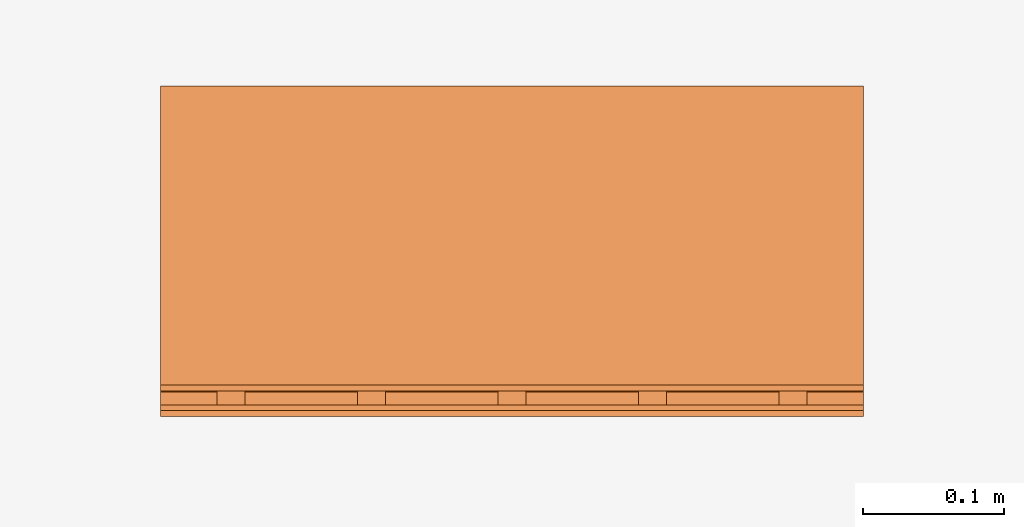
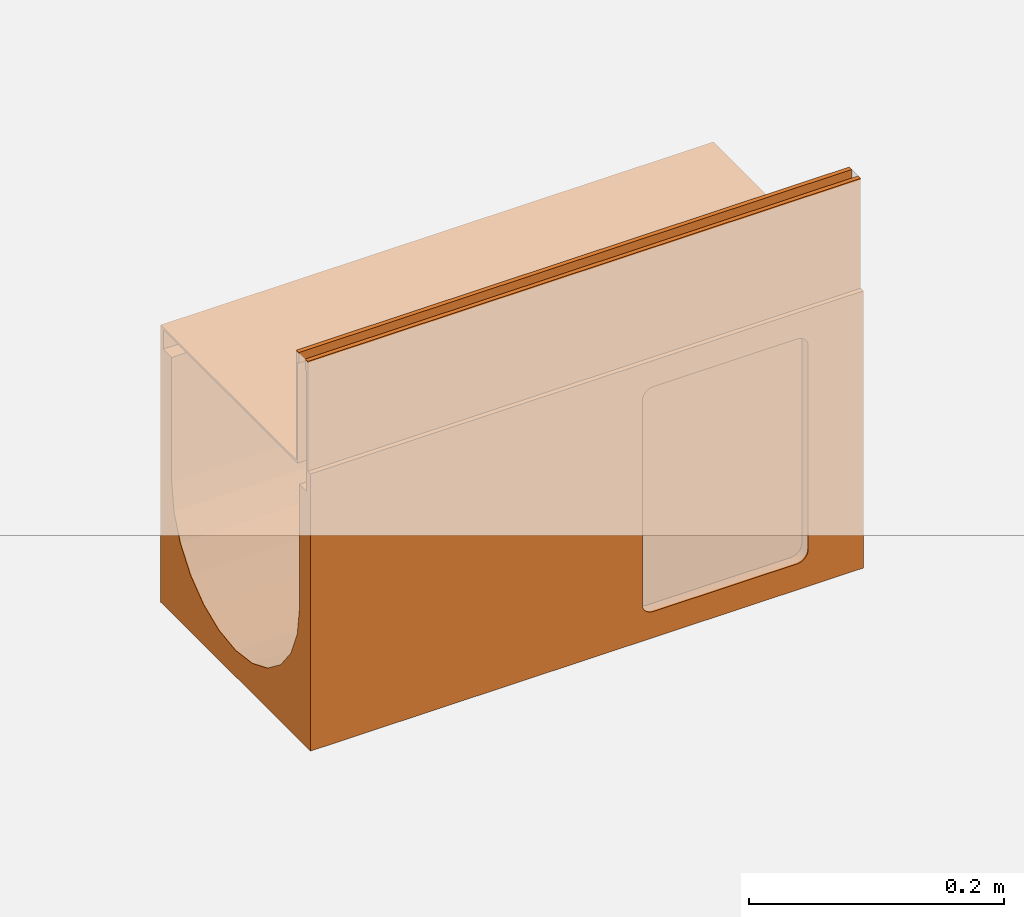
# One storey, part 2 of 2: 1 proxy.
"""IFC2X3 building model written with IfcOpenShell, lengths in millimetres."""

from ifc_helpers import new_model, entity, si_unit, converted_unit, direction, frame, origin, place, context, subcontext, project, spatial, faceted_brep, source, transform, mapped, material, material_list, element, save


model = new_model("IFC2X3")

# Units and contexts
model_context = context("Model", 3, precision=1e-06, world=origin(), true_north=direction((2.0, 6.12303176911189e-17, 1.0)))
context_of_model = context(None, 3, precision=1e-06, world=origin(), true_north=direction((2.0, 6.12303176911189e-17, 1.0)))
body_context = subcontext(model_context, "Body", "Model", "MODEL_VIEW")
ifc_project = project(units=[si_unit("LENGTHUNIT", "METRE", prefix="MILLI"), si_unit("AREAUNIT", "SQUARE_METRE", prefix="MILLI"), si_unit("VOLUMEUNIT", "CUBIC_METRE", prefix="MILLI"), converted_unit("PLANEANGLEUNIT", "DEGREE", entity("IfcRatioMeasure", 0.0174532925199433), si_unit("PLANEANGLEUNIT", "RADIAN"), dimensions=[0, 0, 0, 0, 0, 0, 0]), si_unit("TIMEUNIT", "SECOND")], contexts=[model_context, context_of_model])

# Site, building, storey
site_placement = place(None, origin())
site = spatial("IfcSite", under=ifc_project, at=site_placement, Name="Default", CompositionType="ELEMENT")
building_placement = place(site_placement, origin())
building = spatial("IfcBuilding", under=site, at=building_placement, CompositionType="ELEMENT")
storey_placement = place(building_placement, origin())
storey = spatial("IfcBuildingStorey", under=building, at=storey_placement, Name="Level 1", CompositionType="ELEMENT", Elevation=0.0)

# Proxy
ifc_material_1 = material(Name="Stainless Steel (F)")
ifc_material_2 = material(Name="Vienite® Synthetic Resin Concrete")
ifc_material_list = material_list([ifc_material_1, ifc_material_2])
shared_shape = source(origin(), body_context, "Body", "Brep", [
    faceted_brep([(113.250000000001, 40.0, -107.0), (113.250000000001, 42.0, -109.0), (113.250000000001, 58.0, -109.0), (113.250000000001, 60.0, -107.0), (113.250000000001, 42.0, -123.499999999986), (113.250000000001, 40.0, -125.499999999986), (113.250000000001, 58.0, -123.499999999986), (113.250000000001, 60.0, -125.499999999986), (-111.249999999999, 40.0, -125.499999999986), (-111.249999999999, 42.0, -123.499999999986), (-111.249999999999, 58.0, -123.499999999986), (-111.249999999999, 60.0, -125.499999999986), (-111.249999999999, 42.0, -109.0), (-111.249999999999, 40.0, -107.0), (-111.249999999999, 58.0, -109.0), (-111.249999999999, 60.0, -107.0)], [[[0, 1, 2, 3]], [[4, 1, 0, 5]], [[3, 2, 6, 7]], [[6, 4, 5, 7]], [[8, 9, 10, 11]], [[12, 9, 8, 13]], [[11, 10, 14, 15]], [[14, 12, 13, 15]], [[8, 5, 0, 13]], [[7, 5, 8, 11]], [[15, 3, 7, 11]], [[0, 3, 15, 13]], [[1, 4, 9, 12]], [[2, 1, 12, 14]], [[10, 6, 2, 14]], [[4, 6, 10, 9]]]),
    faceted_brep([(113.250000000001, 140.0, -107.0), (113.250000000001, 142.0, -109.0), (113.250000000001, 158.0, -109.0), (113.250000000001, 160.0, -107.0), (113.250000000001, 142.0, -123.499999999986), (113.250000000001, 140.0, -125.499999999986), (113.250000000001, 158.0, -123.499999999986), (113.250000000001, 160.0, -125.499999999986), (-111.249999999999, 140.0, -125.499999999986), (-111.249999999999, 142.0, -123.499999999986), (-111.249999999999, 158.0, -123.499999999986), (-111.249999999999, 160.0, -125.499999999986), (-111.249999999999, 142.0, -109.0), (-111.249999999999, 140.0, -107.0), (-111.249999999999, 158.0, -109.0), (-111.249999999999, 160.0, -107.0)], [[[0, 1, 2, 3]], [[4, 1, 0, 5]], [[3, 2, 6, 7]], [[6, 4, 5, 7]], [[8, 9, 10, 11]], [[12, 9, 8, 13]], [[11, 10, 14, 15]], [[14, 12, 13, 15]], [[8, 5, 0, 13]], [[7, 5, 8, 11]], [[15, 3, 7, 11]], [[0, 3, 15, 13]], [[1, 4, 9, 12]], [[2, 1, 12, 14]], [[10, 6, 2, 14]], [[4, 6, 10, 9]]]),
    faceted_brep([(113.250000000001, 240.0, -107.0), (113.250000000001, 242.0, -109.0), (113.250000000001, 258.0, -109.0), (113.250000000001, 260.0, -107.0), (113.250000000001, 242.0, -123.499999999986), (113.250000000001, 240.0, -125.499999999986), (113.250000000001, 258.0, -123.499999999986), (113.250000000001, 260.0, -125.499999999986), (-111.249999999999, 240.0, -125.499999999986), (-111.249999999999, 242.0, -123.499999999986), (-111.249999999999, 258.0, -123.499999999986), (-111.249999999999, 260.0, -125.499999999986), (-111.249999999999, 242.0, -109.0), (-111.249999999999, 240.0, -107.0), (-111.249999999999, 258.0, -109.0), (-111.249999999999, 260.0, -107.0)], [[[0, 1, 2, 3]], [[4, 1, 0, 5]], [[3, 2, 6, 7]], [[6, 4, 5, 7]], [[8, 9, 10, 11]], [[12, 9, 8, 13]], [[11, 10, 14, 15]], [[14, 12, 13, 15]], [[8, 5, 0, 13]], [[7, 5, 8, 11]], [[15, 3, 7, 11]], [[0, 3, 15, 13]], [[1, 4, 9, 12]], [[2, 1, 12, 14]], [[10, 6, 2, 14]], [[4, 6, 10, 9]]]),
    faceted_brep([(113.250000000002, 340.0, -107.0), (113.250000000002, 342.0, -109.0), (113.250000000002, 358.0, -109.0), (113.250000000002, 360.0, -107.0), (113.250000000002, 342.0, -123.499999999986), (113.250000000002, 340.0, -125.499999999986), (113.250000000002, 358.0, -123.499999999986), (113.250000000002, 360.0, -125.499999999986), (-111.249999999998, 340.0, -125.499999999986), (-111.249999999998, 342.0, -123.499999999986), (-111.249999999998, 358.0, -123.499999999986), (-111.249999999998, 360.0, -125.499999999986), (-111.249999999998, 342.0, -109.0), (-111.249999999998, 340.0, -107.0), (-111.249999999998, 358.0, -109.0), (-111.249999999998, 360.0, -107.0)], [[[0, 1, 2, 3]], [[4, 1, 0, 5]], [[3, 2, 6, 7]], [[6, 4, 5, 7]], [[8, 9, 10, 11]], [[12, 9, 8, 13]], [[11, 10, 14, 15]], [[14, 12, 13, 15]], [[8, 5, 0, 13]], [[7, 5, 8, 11]], [[15, 3, 7, 11]], [[0, 3, 15, 13]], [[1, 4, 9, 12]], [[2, 1, 12, 14]], [[10, 6, 2, 14]], [[4, 6, 10, 9]]]),
    faceted_brep([(113.250000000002, 440.0, -107.0), (113.250000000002, 442.0, -109.0), (113.250000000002, 458.0, -109.0), (113.250000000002, 460.0, -107.0), (113.250000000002, 442.0, -123.499999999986), (113.250000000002, 440.0, -125.499999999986), (113.250000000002, 458.0, -123.499999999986), (113.250000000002, 460.0, -125.499999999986), (-111.249999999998, 440.0, -125.499999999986), (-111.249999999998, 442.0, -123.499999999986), (-111.249999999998, 458.0, -123.499999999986), (-111.249999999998, 460.0, -125.499999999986), (-111.249999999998, 442.0, -109.0), (-111.249999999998, 440.0, -107.0), (-111.249999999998, 458.0, -109.0), (-111.249999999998, 460.0, -107.0)], [[[0, 1, 2, 3]], [[4, 1, 0, 5]], [[3, 2, 6, 7]], [[6, 4, 5, 7]], [[8, 9, 10, 11]], [[12, 9, 8, 13]], [[11, 10, 14, 15]], [[14, 12, 13, 15]], [[8, 5, 0, 13]], [[7, 5, 8, 11]], [[15, 3, 7, 11]], [[0, 3, 15, 13]], [[1, 4, 9, 12]], [[2, 1, 12, 14]], [[10, 6, 2, 14]], [[4, 6, 10, 9]]]),
    faceted_brep([(-97.2500000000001, 0.0, -10.0), (-97.2500000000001, 0.0, -107.0), (-95.25, 0.0, -105.0), (-95.25, 0.0, 0.0), (-99.2500000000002, 0.0, 0.0), (-99.2500000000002, 0.0, -10.0), (113.250000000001, 0.0, -107.0), (113.250000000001, 0.0, -105.0), (-95.25, 500.0, -105.0), (113.250000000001, 500.0, -105.0), (113.250000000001, 500.0, -107.0), (-97.2500000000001, 500.0, -107.0), (-97.2500000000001, 500.0, -10.0), (-95.25, 500.0, 0.0), (-99.2500000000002, 500.0, -10.0), (-99.2500000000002, 500.0, 0.0)], [[[0, 1, 2, 3]], [[4, 5, 0, 3]], [[6, 7, 2, 1]], [[8, 9, 10, 11]], [[12, 13, 8, 11]], [[12, 14, 15, 13]], [[12, 0, 5, 14]], [[1, 0, 12, 11]], [[6, 1, 11, 10]], [[9, 7, 6, 10]], [[8, 2, 7, 9]], [[3, 2, 8, 13]], [[4, 3, 13, 15]], [[5, 4, 15, 14]]]),
    faceted_brep([(-109.25, 500.0, 0.0), (-109.25, 500.0, -10.0), (-111.25, 500.0, -10.0), (-113.25, 500.0, 0.0), (-113.25, 500.0, -125.499999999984), (-111.25, 500.0, -125.499999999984), (-111.25, 0.0, -10.0), (-113.25, 0.0, 0.0), (-113.25, 0.0, -125.499999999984), (-111.25, 0.0, -125.499999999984), (-109.25, 0.0, 0.0), (-109.25, 0.0, -10.0)], [[[0, 1, 2, 3]], [[4, 3, 2, 5]], [[6, 7, 8, 9]], [[10, 7, 6, 11]], [[5, 9, 8, 4]], [[6, 9, 5, 2]], [[1, 11, 6, 2]], [[10, 11, 1, 0]], [[7, 10, 0, 3]], [[4, 8, 7, 3]]]),
    faceted_brep([(107.5, 57.4118095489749, -344.659258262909), (107.5, 60.0, -345.0), (107.5, 50.0, -335.0), (107.5, 50.3407417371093, -337.588190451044), (107.5, 55.0, -343.660254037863), (107.5, 52.9289321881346, -342.071067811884), (107.5, 51.3397459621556, -340.0), (107.5, 200.0, -335.0), (107.5, 190.0, -345.0), (107.5, 195.0, -343.660254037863), (107.5, 197.071067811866, -342.071067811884), (107.5, 192.588190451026, -344.659258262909), (107.5, 198.660254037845, -340.0), (107.5, 199.659258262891, -337.588190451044), (107.5, 200.0, -140.0), (107.5, 50.0, -140.0), (107.5, 50.3407417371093, -137.411809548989), (107.5, 60.0, -130.0), (107.5, 52.9289321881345, -132.928932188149), (107.5, 51.3397459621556, -135.0), (107.5, 55.0, -131.33974596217), (107.5, 57.4118095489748, -130.340741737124), (107.5, 190.0, -130.0), (107.5, 199.659258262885, -137.411809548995), (107.5, 198.660254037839, -135.0), (107.5, 195.0, -131.339745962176), (107.5, 192.58819045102, -130.34074173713), (107.5, 197.07106781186, -132.928932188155), (117.5, 50.0, -140.0), (117.5, 50.0, -335.0), (117.5, 60.0, -130.0), (117.5, 190.0, -130.0), (117.5, 200.0, -140.0), (117.5, 200.0, -335.0), (117.5, 190.0, -345.0), (117.5, 60.0, -345.0), (113.25, 500.0, -125.500000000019), (113.25, 500.0, -105.0), (117.5, 500.0, -105.0), (117.5, 500.0, -370.0), (100.0, 500.0, -245.0), (100.0, 500.0, -125.5), (-117.5, 500.0, -105.0), (-113.25, 500.0, -105.0), (-113.25, 500.0, -125.500000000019), (-117.5, 500.0, -370.0), (-100.0, 500.0, -125.500000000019), (-100.0, 500.0, -245.0), (96.5925826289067, 500.0, -270.881904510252), (70.7106781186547, 500.0, -315.710678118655), (86.6025403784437, 500.0, -295.0), (50.0, 500.0, -331.602540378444), (0.0, 500.0, -345.0), (25.8819045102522, 500.0, -341.592582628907), (-86.6025403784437, 500.0, -295.0), (-70.7106781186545, 500.0, -315.710678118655), (-96.5925826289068, 500.0, -270.881904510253), (-50.0, 500.0, -331.602540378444), (-25.8819045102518, 500.0, -341.592582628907), (117.5, 0.0, -370.0), (25.8819045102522, 0.0, -341.592582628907), (0.0, 0.0, -345.0), (50.0, 0.0, -331.602540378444), (70.7106781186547, 0.0, -315.710678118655), (86.6025403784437, 0.0, -295.0), (96.5925826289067, 0.0, -270.881904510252), (-25.8819045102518, 0.0, -341.592582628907), (-117.5, 0.0, -370.0), (-50.0, 0.0, -331.602540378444), (-70.7106781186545, 0.0, -315.710678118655), (-86.6025403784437, 0.0, -295.0), (-96.5925826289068, 0.0, -270.881904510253), (100.0, 0.0, -245.0), (113.25, 0.0, -125.500000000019), (100.0, 0.0, -125.5), (117.5, 0.0, -105.0), (113.25, 0.0, -105.0), (-100.0, 0.0, -245.0), (-100.0, 0.0, -125.500000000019), (-113.25, 0.0, -125.500000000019), (-113.25, 0.0, -105.0), (-117.5, 0.0, -105.0), (-117.5, 51.3397459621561, -135.0), (-117.5, 50.3407417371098, -137.411809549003), (-117.5, 52.928932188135, -132.928932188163), (-117.5, 50.0, -140.0), (-117.5, 50.0, -335.0), (-117.5, 60.0, -130.0), (-117.5, 57.4118095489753, -130.340741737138), (-117.5, 55.0, -131.339745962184), (-117.5, 190.0, -130.0), (-117.5, 50.3407417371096, -337.588190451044), (-117.5, 51.3397459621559, -340.0), (-117.5, 52.9289321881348, -342.071067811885), (-117.5, 55.0, -343.660254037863), (-117.5, 57.411809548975, -344.65925826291), (-117.5, 60.0, -345.0), (-117.5, 190.0, -345.0), (-117.5, 192.588190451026, -130.340741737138), (-117.5, 197.071067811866, -132.928932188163), (-117.5, 195.0, -131.339745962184), (-117.5, 198.660254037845, -135.0), (-117.5, 199.659258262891, -137.411809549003), (-117.5, 200.0, -140.0), (-117.5, 195.0, -343.660254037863), (-117.5, 197.071067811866, -342.071067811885), (-117.5, 192.588190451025, -344.65925826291), (-117.5, 199.659258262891, -337.588190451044), (-117.5, 200.0, -335.0), (-117.5, 198.660254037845, -340.0), (-20.7055236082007, 47.7259338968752, -370.0), (0.0, 45.0, -370.0), (-40.0, 55.7179676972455, -370.0), (-77.2740661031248, 104.294476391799, -370.0), (-69.2820323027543, 85.0, -370.0), (-56.5685424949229, 68.4314575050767, -370.0), (-80.0, 125.0, -370.0), (20.7055236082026, 47.7259338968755, -370.0), (40.0, 55.7179676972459, -370.0), (56.5685424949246, 68.4314575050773, -370.0), (69.2820323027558, 85.0, -370.0), (77.2740661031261, 104.294476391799, -370.0), (80.0, 125.0, -370.0), (77.2740661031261, 145.705523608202, -370.0), (-77.2740661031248, 145.705523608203, -370.0), (-69.2820323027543, 165.0, -370.0), (-56.5685424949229, 181.568542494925, -370.0), (-40.0, 194.282032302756, -370.0), (-20.7055236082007, 202.274066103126, -370.0), (0.0, 205.0, -370.0), (69.2820323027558, 165.0, -370.0), (56.5685424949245, 181.568542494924, -370.0), (20.7055236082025, 202.274066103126, -370.0), (40.0, 194.282032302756, -370.0), (117.5, 51.3397459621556, -340.0), (117.5, 50.3407417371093, -337.588190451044), (117.5, 52.9289321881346, -342.071067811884), (117.5, 57.4118095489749, -344.659258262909), (117.5, 55.0, -343.660254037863), (117.5, 50.3407417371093, -137.411809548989), (117.5, 51.3397459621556, -135.0), (117.5, 52.9289321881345, -132.928932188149), (117.5, 55.0, -131.33974596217), (117.5, 57.4118095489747, -130.340741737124), (117.5, 192.588190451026, -344.659258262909), (117.5, 197.071067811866, -342.071067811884), (117.5, 195.0, -343.660254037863), (117.5, 198.660254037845, -340.0), (117.5, 199.659258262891, -337.588190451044), (117.5, 195.0, -131.339745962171), (117.5, 197.07106781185, -132.928932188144), (117.5, 192.588190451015, -130.340741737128), (117.5, 199.659258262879, -137.411809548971), (117.5, 198.660254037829, -135.0), (-107.5, 198.660254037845, -135.0), (-107.5, 199.659258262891, -137.411809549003), (-107.5, 200.0, -140.0), (-107.5, 197.071067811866, -132.928932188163), (-107.5, 190.0, -130.0), (-107.5, 192.588190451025, -130.340741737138), (-107.5, 195.0, -131.339745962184), (-107.5, 50.0, -140.0), (-107.5, 200.0, -335.0), (-107.5, 50.0, -335.0), (-107.5, 199.659258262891, -337.588190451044), (-107.5, 198.660254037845, -340.0), (-107.5, 195.0, -343.660254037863), (-107.5, 197.071067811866, -342.071067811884), (-107.5, 192.588190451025, -344.65925826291), (-107.5, 190.0, -345.0), (-107.5, 60.0, -345.0), (-107.5, 57.4118095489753, -130.340741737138), (-107.5, 60.0, -130.0), (-107.5, 52.928932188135, -132.928932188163), (-107.5, 55.0, -131.339745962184), (-107.5, 51.3397459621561, -135.0), (-107.5, 50.3407417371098, -137.411809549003), (-107.5, 57.4118095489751, -344.65925826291), (-107.5, 55.0, -343.660254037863), (-107.5, 50.3407417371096, -337.588190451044), (-107.5, 52.9289321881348, -342.071067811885), (-107.5, 51.3397459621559, -340.0), (-56.5685424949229, 181.568542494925, -360.0), (-40.0, 194.282032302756, -360.0), (-20.7055236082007, 202.274066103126, -360.0), (40.0, 194.282032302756, -360.0), (-80.0, 125.0, -360.0), (-77.2740661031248, 145.705523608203, -360.0), (-69.2820323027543, 165.0, -360.0), (77.2740661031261, 145.705523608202, -360.0), (0.0, 205.0, -360.0), (20.7055236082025, 202.274066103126, -360.0), (56.5685424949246, 181.568542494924, -360.0), (69.2820323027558, 165.0, -360.0), (-77.2740661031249, 104.294476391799, -360.0), (80.0, 125.0, -360.0), (-56.5685424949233, 68.4314575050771, -360.0), (-69.2820323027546, 85.0, -360.0), (-40.0, 55.7179676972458, -360.0), (0.0, 45.0, -360.0), (-20.7055236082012, 47.7259338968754, -360.0), (40.0, 55.7179676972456, -360.0), (77.2740661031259, 104.294476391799, -360.0), (69.2820323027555, 85.0, -360.0), (56.5685424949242, 68.4314575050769, -360.0), (20.7055236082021, 47.7259338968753, -360.0)], [[[0, 1, 2, 3]], [[4, 0, 5]], [[3, 6, 5, 0]], [[7, 2, 1, 8]], [[9, 10, 11]], [[7, 8, 11, 10]], [[10, 12, 13, 7]], [[2, 7, 14, 15]], [[16, 15, 17, 18]], [[19, 16, 18]], [[20, 18, 17, 21]], [[22, 17, 15, 14]], [[14, 23, 24, 22]], [[25, 26, 22, 24]], [[25, 24, 27]], [[2, 15, 28, 29]], [[30, 17, 22, 31]], [[32, 14, 7, 33]], [[34, 8, 1, 35]], [[36, 37, 38, 39]], [[40, 41, 36, 39]], [[42, 43, 44, 45]], [[44, 46, 47, 45]], [[40, 39, 48]], [[49, 50, 39]], [[51, 49, 39]], [[52, 53, 39, 45]], [[39, 53, 51]], [[50, 48, 39]], [[54, 55, 45]], [[56, 54, 45]], [[57, 58, 45]], [[45, 58, 52]], [[57, 45, 55]], [[56, 45, 47]], [[59, 60, 61]], [[60, 59, 62]], [[63, 62, 59]], [[64, 63, 59]], [[59, 65, 64]], [[61, 66, 67, 59]], [[67, 66, 68]], [[69, 70, 67]], [[68, 69, 67]], [[67, 70, 71]], [[72, 65, 59]], [[73, 74, 72, 59]], [[75, 76, 73, 59]], [[77, 78, 79, 67]], [[71, 77, 67]], [[79, 80, 81, 67]], [[43, 80, 79, 44]], [[81, 80, 43, 42]], [[81, 82, 83]], [[82, 81, 84]], [[81, 83, 85, 86]], [[87, 88, 81]], [[89, 84, 81]], [[88, 89, 81]], [[90, 87, 81, 42]], [[86, 91, 67, 81]], [[67, 92, 93]], [[92, 67, 91]], [[93, 94, 67]], [[95, 96, 67]], [[94, 95, 67]], [[67, 96, 97]], [[98, 90, 42]], [[99, 100, 42]], [[98, 42, 100]], [[101, 42, 102]], [[42, 101, 99]], [[103, 102, 42, 45]], [[104, 105, 45]], [[97, 106, 45, 67]], [[104, 45, 106]], [[45, 107, 108, 103]], [[109, 45, 105]], [[45, 109, 107]], [[67, 110, 111, 59]], [[110, 67, 112]], [[113, 114, 67]], [[115, 112, 67]], [[114, 115, 67]], [[67, 116, 113]], [[59, 117, 118]], [[117, 59, 111]], [[59, 118, 119]], [[119, 120, 59]], [[121, 122, 59]], [[120, 121, 59]], [[59, 122, 123, 39]], [[124, 116, 67, 45]], [[125, 124, 45]], [[126, 45, 127]], [[45, 126, 125]], [[128, 127, 45]], [[129, 128, 45, 39]], [[130, 131, 39]], [[123, 130, 39]], [[132, 129, 39]], [[133, 39, 131]], [[39, 133, 132]], [[59, 134, 135]], [[134, 59, 136]], [[59, 135, 29, 28]], [[35, 137, 59]], [[138, 136, 59]], [[137, 138, 59]], [[34, 35, 59, 39]], [[28, 139, 75, 59]], [[75, 140, 141]], [[140, 75, 139]], [[141, 142, 75]], [[143, 30, 75]], [[142, 143, 75]], [[75, 30, 31]], [[144, 34, 39]], [[145, 146, 39]], [[144, 39, 146]], [[147, 39, 148]], [[39, 147, 145]], [[33, 148, 39, 38]], [[149, 150, 38]], [[31, 151, 38, 75]], [[149, 38, 151]], [[38, 152, 32, 33]], [[153, 38, 150]], [[38, 153, 152]], [[76, 75, 38, 37]], [[36, 73, 76, 37]], [[41, 74, 73, 36]], [[40, 72, 74, 41]], [[46, 78, 77, 47]], [[79, 78, 46, 44]], [[50, 64, 65, 48]], [[48, 65, 72, 40]], [[51, 62, 63, 49]], [[49, 63, 64, 50]], [[53, 60, 62, 51]], [[60, 53, 52, 61]], [[57, 68, 66, 58]], [[55, 69, 68, 57]], [[56, 71, 70, 54]], [[54, 70, 69, 55]], [[47, 77, 71, 56]], [[58, 66, 61, 52]], [[154, 155, 156, 157]], [[157, 158, 159, 160]], [[158, 157, 156, 161]], [[161, 156, 162, 163]], [[162, 164, 165, 166]], [[166, 165, 167]], [[162, 166, 168, 169]], [[162, 169, 170, 163]], [[161, 171, 172, 158]], [[173, 174, 171, 175]], [[176, 175, 171, 161]], [[170, 177, 178, 163]], [[179, 178, 180, 181]], [[163, 178, 179]], [[161, 163, 86, 85]], [[90, 158, 172, 87]], [[162, 156, 103, 108]], [[96, 170, 169, 97]], [[179, 91, 86, 163]], [[181, 92, 91, 179]], [[92, 181, 180, 93]], [[178, 94, 93, 180]], [[177, 95, 94, 178]], [[95, 177, 170, 96]], [[168, 106, 97, 169]], [[166, 104, 106, 168]], [[104, 166, 167, 105]], [[165, 109, 105, 167]], [[164, 107, 109, 165]], [[107, 164, 162, 108]], [[155, 102, 103, 156]], [[154, 101, 102, 155]], [[101, 154, 157, 99]], [[160, 100, 99, 157]], [[159, 98, 100, 160]], [[98, 159, 158, 90]], [[171, 88, 87, 172]], [[174, 89, 88, 171]], [[89, 174, 173, 84]], [[175, 82, 84, 173]], [[176, 83, 82, 175]], [[83, 176, 161, 85]], [[16, 139, 28, 15]], [[19, 140, 139, 16]], [[140, 19, 18, 141]], [[20, 142, 141, 18]], [[21, 143, 142, 20]], [[143, 21, 17, 30]], [[26, 151, 31, 22]], [[25, 149, 151, 26]], [[149, 25, 27, 150]], [[24, 153, 150, 27]], [[23, 152, 153, 24]], [[152, 23, 14, 32]], [[13, 148, 33, 7]], [[12, 147, 148, 13]], [[147, 12, 10, 145]], [[9, 146, 145, 10]], [[11, 144, 146, 9]], [[144, 11, 8, 34]], [[0, 137, 35, 1]], [[4, 138, 137, 0]], [[138, 4, 5, 136]], [[6, 134, 136, 5]], [[3, 135, 134, 6]], [[135, 3, 2, 29]], [[182, 183, 184, 185]], [[182, 186, 187, 188]], [[186, 182, 185, 189]], [[184, 190, 191, 185]], [[185, 192, 193, 189]], [[194, 186, 189, 195]], [[196, 197, 194, 198]], [[199, 200, 198, 201]], [[195, 198, 194]], [[202, 203, 204, 201]], [[195, 202, 201, 198]], [[201, 205, 199]], [[189, 123, 122, 195]], [[193, 130, 123, 189]], [[185, 133, 131, 192]], [[192, 131, 130, 193]], [[191, 132, 133, 185]], [[132, 191, 190, 129]], [[184, 128, 129, 190]], [[183, 127, 128, 184]], [[188, 125, 126, 182]], [[182, 126, 127, 183]], [[187, 124, 125, 188]], [[124, 187, 186, 116]], [[194, 113, 116, 186]], [[197, 114, 113, 194]], [[198, 112, 115, 196]], [[196, 115, 114, 197]], [[200, 110, 112, 198]], [[110, 200, 199, 111]], [[205, 117, 111, 199]], [[201, 118, 117, 205]], [[203, 120, 119, 204]], [[204, 119, 118, 201]], [[202, 121, 120, 203]], [[202, 195, 122, 121]]]),
])
proxy_placement = place(storey_placement, frame((-24.5269790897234, 283.73832696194, 0.0), z_axis=(0.0, 0.0, 1.0), x_axis=(0.0, 1.0, 0.0)))
element("IfcBuildingElementProxy", 1, at=proxy_placement, inside=storey, material=ifc_material_list, Name="Civil-Drainage-Channel-ACO-MultiDrain-M200DS-Brickslot-Channel-System:24213 - No 0.1J Constant Depth Channel - 500mm LG - Invert Depth 240mm:24213 - No 0.1J Constant Depth Channel - 500mm LG - Invert Depth 240mm", ObjectType="24213 - No 0.1J Constant Depth Channel - 500mm LG - Invert Depth 240mm", CompositionType="ELEMENT", context=body_context, shape_type="MappedRepresentation", body=[
    mapped(shared_shape, transform((0.0, 0.0, 0.0), scale=1.0)),
])

save(model, "model.ifc")
